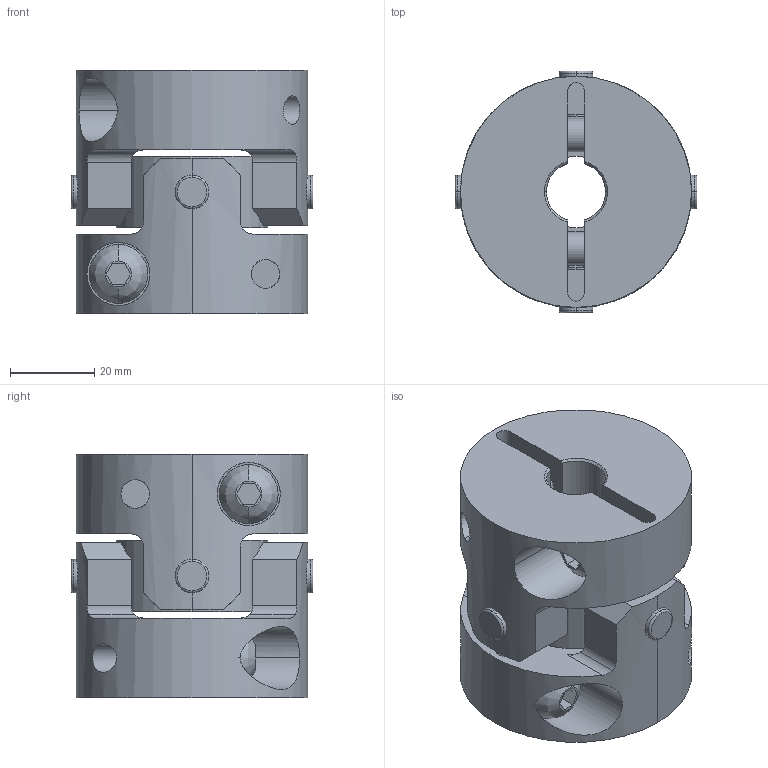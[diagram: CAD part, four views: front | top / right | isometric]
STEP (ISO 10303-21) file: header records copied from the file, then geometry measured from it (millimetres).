
FILE_DESCRIPTION((''),'2;1');
FILE_NAME('UA-55C-14×24.stp','2013-05-22T13:56:31',(''),(''),'AutoCAD STEP 2000i','AutoCAD 2000i',', , ');
FILE_SCHEMA(('CONFIG_CONTROL_DESIGN'));
Length unit declared in the file: millimetre
Products named in the file (7): UA-55C-10×18; 忣兜1; UA-5502-D18; BTN-M8; UA-5502-D10-1; UA-5502-D10; UA55-SEN
Assembly tree (8 placements, depth 3):
  UA-55C-10×18
    忣兜1
    UA-5502-D18
      BTN-M8
    UA-5502-D10-1
      BTN-M8
    UA-5502-D10
      BTN-M8
    UA55-SEN
Bounding box: 57.55 x 57.55 x 58 mm (x, y, z)
Volume: 95954.8 mm3; surface area: 31001.1 mm2
Topology: 1 solids, 1 shells, 206 faces, 554 edges, 364 vertices
Faces by surface type: cylinder 96, plane 78, cone 16, bspline 8, torus 8
Entity records: 8407 total; most frequent: CARTESIAN_POINT 3071, ORIENTED_EDGE 1108, DIRECTION 1068, EDGE_CURVE 554, AXIS2_PLACEMENT_3D 411, VERTEX_POINT 364, VECTOR 246, LINE 246
